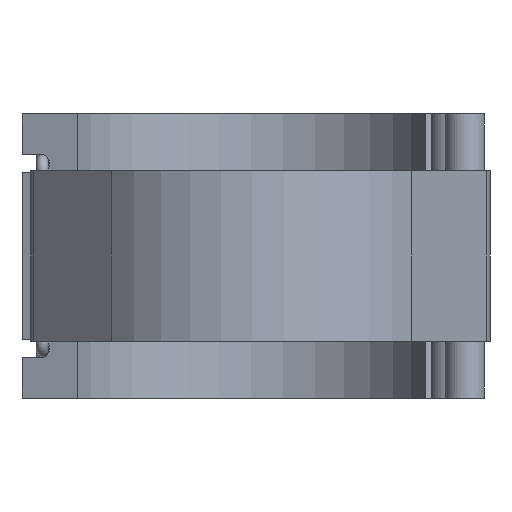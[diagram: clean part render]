
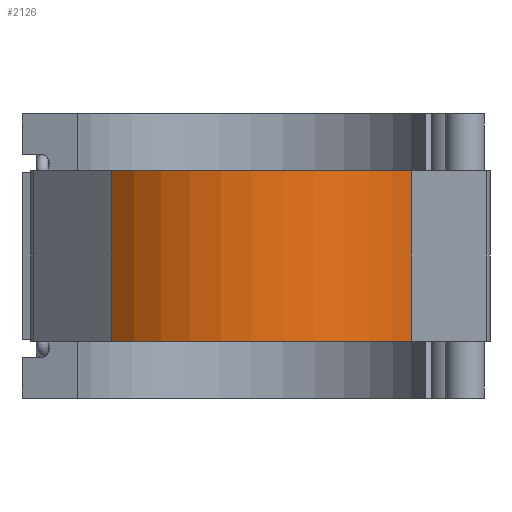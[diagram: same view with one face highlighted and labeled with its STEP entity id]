
A CAD part, front view. The second image highlights one B-rep face of the part: STEP entity #2126.
In plain terms, the highlighted cylindrical face has radius 117.883 mm (diameter 235.767 mm), a partial arc.
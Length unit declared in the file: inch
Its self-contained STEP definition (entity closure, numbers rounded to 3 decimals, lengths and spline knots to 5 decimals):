
#69=CYLINDRICAL_SURFACE('',#2317,4.64108);
#124=CIRCLE('',#2239,4.64108);
#133=CIRCLE('',#2249,4.64108);
#270=FACE_OUTER_BOUND('',#399,.T.);
#399=EDGE_LOOP('',(#1621,#1622,#1623,#1624));
#593=LINE('',#3400,#774);
#594=LINE('',#3402,#775);
#774=VECTOR('',#2732,0.3937);
#775=VECTOR('',#2735,0.3937);
#873=VERTEX_POINT('',#3156);
#874=VERTEX_POINT('',#3158);
#889=VERTEX_POINT('',#3190);
#890=VERTEX_POINT('',#3192);
#1080=EDGE_CURVE('',#873,#874,#124,.T.);
#1097=EDGE_CURVE('',#889,#890,#133,.T.);
#1205=EDGE_CURVE('',#873,#890,#593,.T.);
#1206=EDGE_CURVE('',#874,#889,#594,.T.);
#1621=ORIENTED_EDGE('',*,*,#1205,.T.);
#1622=ORIENTED_EDGE('',*,*,#1097,.F.);
#1623=ORIENTED_EDGE('',*,*,#1206,.F.);
#1624=ORIENTED_EDGE('',*,*,#1080,.F.);
#2126=ADVANCED_FACE('',(#270),#69,.T.);
#2239=AXIS2_PLACEMENT_3D('',#3159,#2493,#2494);
#2249=AXIS2_PLACEMENT_3D('',#3193,#2521,#2522);
#2317=AXIS2_PLACEMENT_3D('',#3401,#2733,#2734);
#2493=DIRECTION('center_axis',(0.,0.,-1.));
#2494=DIRECTION('ref_axis',(0.992,0.126,0.));
#2521=DIRECTION('center_axis',(0.,0.,1.));
#2522=DIRECTION('ref_axis',(0.992,0.126,0.));
#2732=DIRECTION('',(0.,0.,1.));
#2733=DIRECTION('center_axis',(0.,0.,1.));
#2734=DIRECTION('ref_axis',(0.992,0.126,0.));
#2735=DIRECTION('',(0.,0.,1.));
#3156=CARTESIAN_POINT('',(3.90918,-2.50159,-2.079));
#3158=CARTESIAN_POINT('',(-3.41415,-3.14376,-2.079));
#3159=CARTESIAN_POINT('Origin',(0.,0.,-2.079));
#3190=CARTESIAN_POINT('',(-3.41415,-3.14376,2.079));
#3192=CARTESIAN_POINT('',(3.90918,-2.50159,2.079));
#3193=CARTESIAN_POINT('Origin',(0.,0.,2.079));
#3400=CARTESIAN_POINT('',(3.90918,-2.50159,0.));
#3401=CARTESIAN_POINT('Origin',(0.,0.,0.));
#3402=CARTESIAN_POINT('',(-3.41415,-3.14376,0.));
